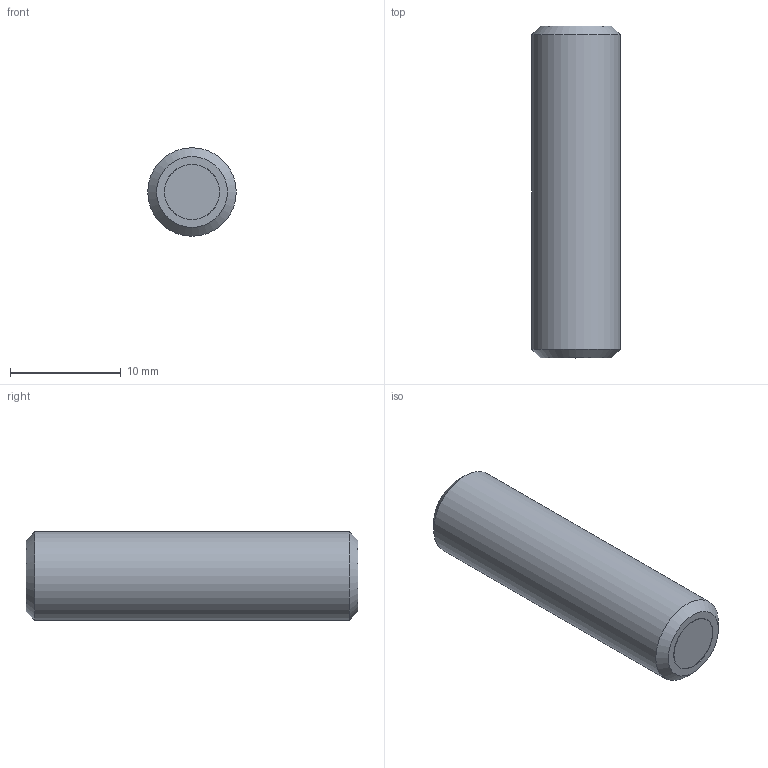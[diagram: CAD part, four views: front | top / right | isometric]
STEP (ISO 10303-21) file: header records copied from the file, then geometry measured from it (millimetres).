
FILE_DESCRIPTION(/* description */ ('STEP AP214'),/* implementation_level */ '2;1');
FILE_NAME(/* name */ 'Grub screw with retaining magnet GN 913.6-M8-30-ND',/* time_stamp */ '2023-10-03T11:26:38+02:00',/* author */ ('License CC BY-ND 4.0'),/* organization */ ('CADENAS'),/* preprocessor_version */ 'ST-DEVELOPER v19.3',/* originating_system */ 'PARTsolutions',/* authorisation */ ' ');
FILE_SCHEMA (('AUTOMOTIVE_DESIGN {1 0 10303 214 3 1 1}'));
Length unit declared in the file: millimetre
Products named in the file (1): Grub screw with retaining magnet GN 913.6-M8-30-ND
Bounding box: 8 x 30 x 8 mm (x, y, z)
Volume: 1435.2 mm3; surface area: 884.8 mm2
Topology: 1 solids, 1 shells, 22 faces, 45 edges, 27 vertices
Faces by surface type: plane 16, cone 3, cylinder 3
Full cylindrical faces by diameter (mm): 4.96 x1, 5 x1, 8 x1
Entity records: 566 total; most frequent: DIRECTION 98, CARTESIAN_POINT 88, ORIENTED_EDGE 76, EDGE_CURVE 38, AXIS2_PLACEMENT_3D 37, FACE_BOUND 31, EDGE_LOOP 30, VERTEX_POINT 27
